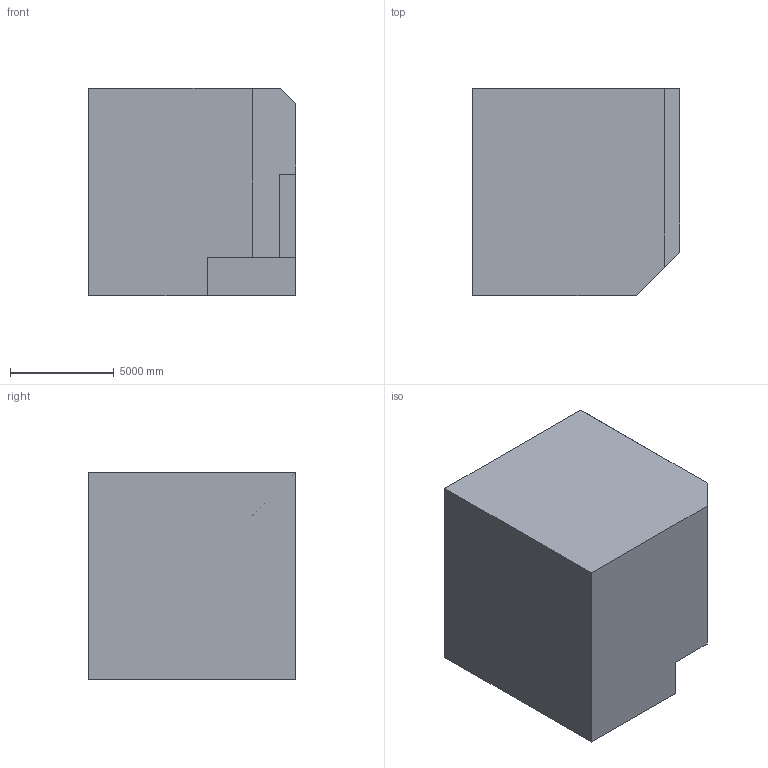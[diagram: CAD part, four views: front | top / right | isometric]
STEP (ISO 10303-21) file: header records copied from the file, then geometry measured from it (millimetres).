
FILE_DESCRIPTION (( 'STEP AP203' ), '1' );
FILE_NAME ('38.STEP', '2022-08-30T14:07:52', ( 'user' ), ( '' ), 'SwSTEP 2.0', 'SolidWorks 2021', '' );
FILE_SCHEMA (( 'CONFIG_CONTROL_DESIGN' ));
Length unit declared in the file: centimetre
Products named in the file (1): 38
Bounding box: 10000 x 10000 x 10000 mm (x, y, z)
Volume: 938715385493.2 mm3; surface area: 589069456.3 mm2
Topology: 1 solids, 1 shells, 15 faces, 39 edges, 26 vertices
Faces by surface type: plane 15
Entity records: 530 total; most frequent: CARTESIAN_POINT 81, ORIENTED_EDGE 78, DIRECTION 71, LINE 39, EDGE_CURVE 39, VECTOR 39, VERTEX_POINT 26, AXIS2_PLACEMENT_3D 16
